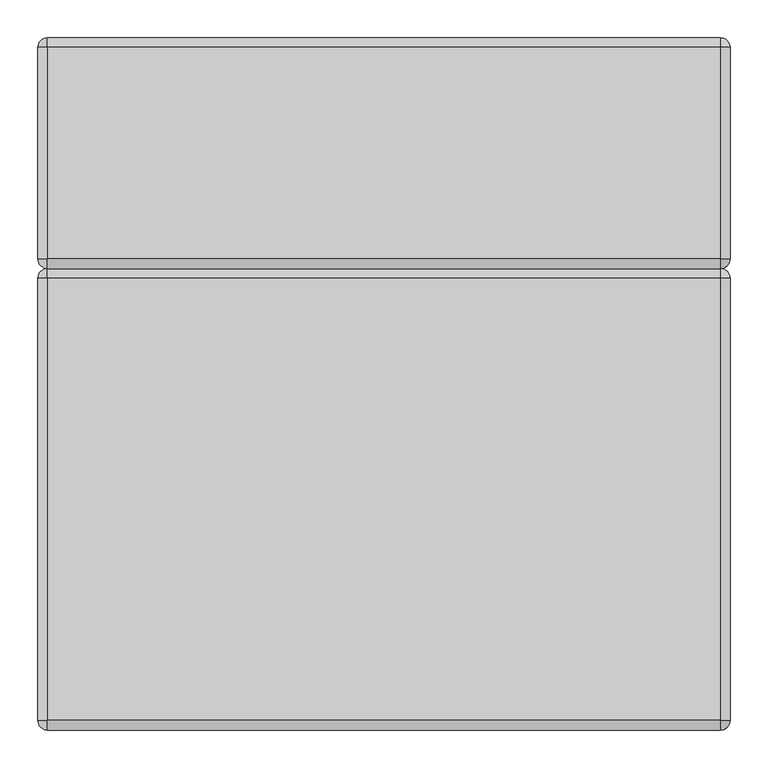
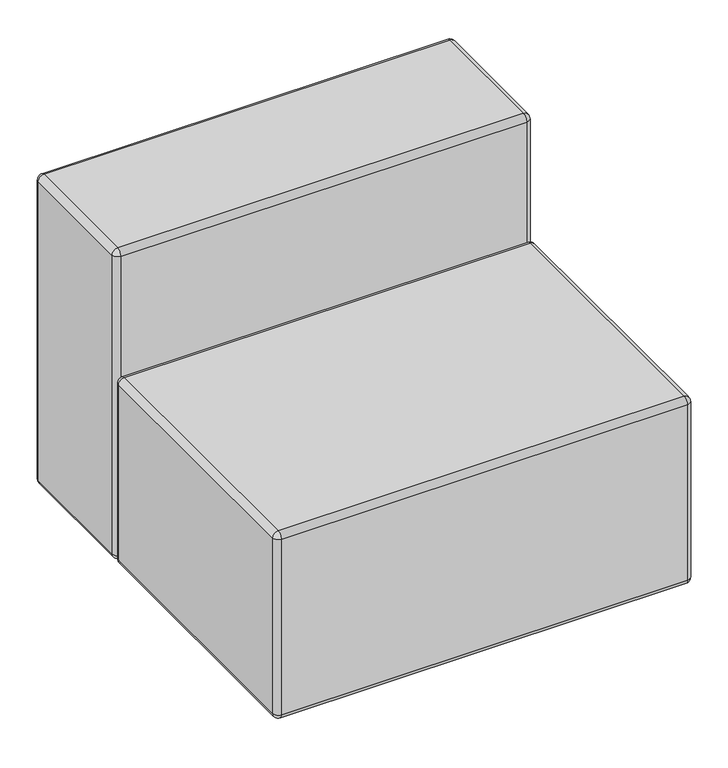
"""IFC4 building model written with IfcOpenShell, lengths in millimetres: furniture geometry, KFI Studios - Conversa : 24”x36” Seat with Back."""

from ifc_helpers import new_model, si_unit, point, frame, origin, place, context, project, spatial, polyline, circle_curve, ellipse_curve, trimmed, source, transform, mapped, element, save
from ifc_brep_helpers import plane_surface, cylinder_surface, revolved_surface, advanced_brep


def furniture_3ffb0636(model_context):
    return source(origin(), model_context, "Body", "AdvancedBrep", [
        advanced_brep(
        [(373.3895895, 517.525, 25.4), (365.125, 517.525, 25.4), (356.8604105, 517.525, 25.4), (373.3895895, 517.525, 14.2843611), (356.8604105, 517.525, 14.2843611), (371.7876354, 517.525, 14.2843611), (358.4623646, 517.525, 14.2843611), (371.7876354, 517.525, 12.7064551), (358.4623646, 517.525, 12.7064551), (373.3890671, 517.525, 12.7064551), (356.8609329, 517.525, 12.7064551), (382.5741215, 517.525, 3.1950529), (347.6758785, 517.525, 3.1950529), (382.5741215, 517.525, 0.0), (347.6758785, 517.525, 0.0), (365.125, 517.525, 0.0)],
        [
            (0, 1),
            (1, 2),
            (2, 0, circle_curve(frame((365.125, 517.525, 25.4), z_axis=(0.0, 0.0, 1.0), x_axis=(-1.0, 0.0, 0.0)), 8.2645895)),
            (0, 2, circle_curve(frame((365.125, 517.525, 25.4), z_axis=(0.0, 0.0, 1.0), x_axis=(-1.0, 0.0, 0.0)), 8.2645895)),
            (3, 0),
            (2, 4),
            (4, 3, circle_curve(frame((365.125, 517.525, 14.2843611), z_axis=(0.0, 0.0, 1.0), x_axis=(-1.0, 0.0, 0.0)), 8.2645895)),
            (3, 4, circle_curve(frame((365.125, 517.525, 14.2843611), z_axis=(0.0, 0.0, 1.0), x_axis=(-1.0, 0.0, 0.0)), 8.2645895)),
            (5, 3),
            (4, 6),
            (6, 5, circle_curve(frame((365.125, 517.525, 14.2843611), z_axis=(0.0, 0.0, 1.0), x_axis=(-1.0, 0.0, 0.0)), 6.6626354)),
            (5, 6, circle_curve(frame((365.125, 517.525, 14.2843611), z_axis=(0.0, 0.0, 1.0), x_axis=(-1.0, 0.0, 0.0)), 6.6626354)),
            (7, 5),
            (6, 8),
            (8, 7, circle_curve(frame((365.125, 517.525, 12.7064551), z_axis=(0.0, 0.0, 1.0), x_axis=(-1.0, 0.0, 0.0)), 6.6626354)),
            (7, 8, circle_curve(frame((365.125, 517.525, 12.7064551), z_axis=(0.0, 0.0, 1.0), x_axis=(-1.0, 0.0, 0.0)), 6.6626354)),
            (9, 7),
            (8, 10),
            (10, 9, circle_curve(frame((365.125, 517.525, 12.7064551), z_axis=(0.0, 0.0, 1.0), x_axis=(-1.0, 0.0, 0.0)), 8.2640671)),
            (9, 10, circle_curve(frame((365.125, 517.525, 12.7064551), z_axis=(0.0, 0.0, 1.0), x_axis=(-1.0, 0.0, 0.0)), 8.2640671)),
            (11, 9),
            (10, 12),
            (12, 11, circle_curve(frame((365.125, 517.525, 3.1950529), z_axis=(0.0, 0.0, 1.0), x_axis=(-1.0, 0.0, 0.0)), 17.4491215)),
            (11, 12, circle_curve(frame((365.125, 517.525, 3.1950529), z_axis=(0.0, 0.0, 1.0), x_axis=(-1.0, 0.0, 0.0)), 17.4491215)),
            (13, 11),
            (12, 14),
            (14, 13, circle_curve(frame((365.125, 517.525, 0.0), z_axis=(0.0, 0.0, 1.0), x_axis=(-1.0, 0.0, 0.0)), 17.4491215)),
            (13, 14, circle_curve(frame((365.125, 517.525, 0.0), z_axis=(0.0, 0.0, 1.0), x_axis=(-1.0, 0.0, 0.0)), 17.4491215)),
            (15, 13),
            (14, 15),
        ],
        [
            plane_surface(frame((365.125, 517.525, 25.4), z_axis=(0.0, 0.0, 1.0), x_axis=(-1.0, 0.0, 0.0))),
            cylinder_surface(frame((365.125, 517.525, 33.820929), z_axis=(0.0, 0.0, -1.0), x_axis=(-1.0, 0.0, 0.0)), 8.2645895),
            plane_surface(frame((365.125, 517.525, 14.2843611), z_axis=(0.0, 0.0, -1.0), x_axis=(-1.0, 0.0, 0.0))),
            cylinder_surface(frame((365.125, 517.525, 33.820929), z_axis=(0.0, 0.0, -1.0), x_axis=(-1.0, 0.0, 0.0)), 6.6626354),
            plane_surface(frame((365.125, 517.525, 12.7064551), z_axis=(0.0, 0.0, 1.0), x_axis=(-1.0, 0.0, 0.0))),
            revolved_surface(polyline([(356.8609329, 517.525, 12.7064551), (347.6758785, 517.525, 3.1950529)]), (365.125, 517.525, 33.820929), (0.0, 0.0, -1.0)),
            cylinder_surface(frame((365.125, 517.525, 33.820929), z_axis=(0.0, 0.0, -1.0), x_axis=(-1.0, 0.0, 0.0)), 17.4491215),
            plane_surface(frame((365.125, 517.525, 0.0), z_axis=(0.0, 0.0, -1.0), x_axis=(-1.0, 0.0, 0.0))),
        ],
        [
            (0, [[1, 2, 3]]),
            (0, [[-2, -1, 4]]),
            (1, [[5, -3, 6, 7]]),
            (1, [[-6, -4, -5, 8]]),
            (2, [[9, -7, 10, 11]]),
            (2, [[-10, -8, -9, 12]]),
            (3, [[13, -11, 14, 15]]),
            (3, [[-14, -12, -13, 16]]),
            (4, [[17, -15, 18, 19]]),
            (4, [[-18, -16, -17, 20]]),
            (5, [[21, -19, 22, 23]]),
            (5, [[-22, -20, -21, 24]]),
            (6, [[25, -23, 26, 27]]),
            (6, [[-26, -24, -25, 28]]),
            (7, [[29, -27, 30]]),
            (7, [[-30, -28, -29]]),
        ],
    ),
        advanced_brep(
        [(-356.8604105, 517.525, 25.4), (-365.125, 517.525, 25.4), (-373.3895895, 517.525, 25.4), (-356.8604105, 517.525, 14.2843611), (-373.3895895, 517.525, 14.2843611), (-358.4623646, 517.525, 14.2843611), (-371.7876354, 517.525, 14.2843611), (-358.4623646, 517.525, 12.7064551), (-371.7876354, 517.525, 12.7064551), (-356.8609329, 517.525, 12.7064551), (-373.3890671, 517.525, 12.7064551), (-347.6758785, 517.525, 3.1950529), (-382.5741215, 517.525, 3.1950529), (-347.6758785, 517.525, 0.0), (-382.5741215, 517.525, 0.0), (-365.125, 517.525, 0.0)],
        [
            (0, 1),
            (1, 2),
            (2, 0, circle_curve(frame((-365.125, 517.525, 25.4), z_axis=(0.0, 0.0, 1.0), x_axis=(-1.0, 0.0, 0.0)), 8.2645895)),
            (0, 2, circle_curve(frame((-365.125, 517.525, 25.4), z_axis=(0.0, 0.0, 1.0), x_axis=(-1.0, 0.0, 0.0)), 8.2645895)),
            (3, 0),
            (2, 4),
            (4, 3, circle_curve(frame((-365.125, 517.525, 14.2843611), z_axis=(0.0, 0.0, 1.0), x_axis=(-1.0, 0.0, 0.0)), 8.2645895)),
            (3, 4, circle_curve(frame((-365.125, 517.525, 14.2843611), z_axis=(0.0, 0.0, 1.0), x_axis=(-1.0, 0.0, 0.0)), 8.2645895)),
            (5, 3),
            (4, 6),
            (6, 5, circle_curve(frame((-365.125, 517.525, 14.2843611), z_axis=(0.0, 0.0, 1.0), x_axis=(-1.0, 0.0, 0.0)), 6.6626354)),
            (5, 6, circle_curve(frame((-365.125, 517.525, 14.2843611), z_axis=(0.0, 0.0, 1.0), x_axis=(-1.0, 0.0, 0.0)), 6.6626354)),
            (7, 5),
            (6, 8),
            (8, 7, circle_curve(frame((-365.125, 517.525, 12.7064551), z_axis=(0.0, 0.0, 1.0), x_axis=(-1.0, 0.0, 0.0)), 6.6626354)),
            (7, 8, circle_curve(frame((-365.125, 517.525, 12.7064551), z_axis=(0.0, 0.0, 1.0), x_axis=(-1.0, 0.0, 0.0)), 6.6626354)),
            (9, 7),
            (8, 10),
            (10, 9, circle_curve(frame((-365.125, 517.525, 12.7064551), z_axis=(0.0, 0.0, 1.0), x_axis=(-1.0, 0.0, 0.0)), 8.2640671)),
            (9, 10, circle_curve(frame((-365.125, 517.525, 12.7064551), z_axis=(0.0, 0.0, 1.0), x_axis=(-1.0, 0.0, 0.0)), 8.2640671)),
            (11, 9),
            (10, 12),
            (12, 11, circle_curve(frame((-365.125, 517.525, 3.1950529), z_axis=(0.0, 0.0, 1.0), x_axis=(-1.0, 0.0, 0.0)), 17.4491215)),
            (11, 12, circle_curve(frame((-365.125, 517.525, 3.1950529), z_axis=(0.0, 0.0, 1.0), x_axis=(-1.0, 0.0, 0.0)), 17.4491215)),
            (13, 11),
            (12, 14),
            (14, 13, circle_curve(frame((-365.125, 517.525, 0.0), z_axis=(0.0, 0.0, 1.0), x_axis=(-1.0, 0.0, 0.0)), 17.4491215)),
            (13, 14, circle_curve(frame((-365.125, 517.525, 0.0), z_axis=(0.0, 0.0, 1.0), x_axis=(-1.0, 0.0, 0.0)), 17.4491215)),
            (15, 13),
            (14, 15),
        ],
        [
            plane_surface(frame((-365.125, 517.525, 25.4), z_axis=(0.0, 0.0, 1.0), x_axis=(-1.0, 0.0, 0.0))),
            cylinder_surface(frame((-365.125, 517.525, 33.820929), z_axis=(0.0, 0.0, -1.0), x_axis=(-1.0, 0.0, 0.0)), 8.2645895),
            plane_surface(frame((-365.125, 517.525, 14.2843611), z_axis=(0.0, 0.0, -1.0), x_axis=(-1.0, 0.0, 0.0))),
            cylinder_surface(frame((-365.125, 517.525, 33.820929), z_axis=(0.0, 0.0, -1.0), x_axis=(-1.0, 0.0, 0.0)), 6.6626354),
            plane_surface(frame((-365.125, 517.525, 12.7064551), z_axis=(0.0, 0.0, 1.0), x_axis=(-1.0, 0.0, 0.0))),
            revolved_surface(polyline([(-373.3890671, 517.525, 12.7064551), (-382.5741215, 517.525, 3.1950529)]), (-365.125, 517.525, 33.820929), (0.0, 0.0, -1.0)),
            cylinder_surface(frame((-365.125, 517.525, 33.820929), z_axis=(0.0, 0.0, -1.0), x_axis=(-1.0, 0.0, 0.0)), 17.4491215),
            plane_surface(frame((-365.125, 517.525, 0.0), z_axis=(0.0, 0.0, -1.0), x_axis=(-1.0, 0.0, 0.0))),
        ],
        [
            (0, [[1, 2, 3]]),
            (0, [[-2, -1, 4]]),
            (1, [[5, -3, 6, 7]]),
            (1, [[-6, -4, -5, 8]]),
            (2, [[9, -7, 10, 11]]),
            (2, [[-10, -8, -9, 12]]),
            (3, [[13, -11, 14, 15]]),
            (3, [[-14, -12, -13, 16]]),
            (4, [[17, -15, 18, 19]]),
            (4, [[-18, -16, -17, 20]]),
            (5, [[21, -19, 22, 23]]),
            (5, [[-22, -20, -21, 24]]),
            (6, [[25, -23, 26, 27]]),
            (6, [[-26, -24, -25, 28]]),
            (7, [[29, -27, 30]]),
            (7, [[-30, -28, -29]]),
        ],
    ),
        advanced_brep(
        [(-457.2, 596.9, 730.25), (-457.2, 317.5, 730.25), (-444.5, 317.5, 742.95), (-444.5, 596.9, 742.95), (-457.2, 596.9, 38.1), (-457.2, 317.5, 38.1), (-444.5, 596.9, 25.4), (-444.5, 317.5, 25.4), (-444.5, 304.8, 730.25), (444.5, 304.8, 730.25), (444.5, 317.5, 742.95), (-444.5, 304.8, 38.1), (444.5, 304.8, 38.1), (444.5, 317.5, 25.4), (444.5, 596.9, 742.95), (444.5, 596.9, 25.4), (444.5, 609.6, 730.25), (-444.5, 609.6, 730.25), (444.5, 609.6, 38.1), (-444.5, 609.6, 38.1), (457.2, 317.5, 730.25), (457.2, 596.9, 730.25), (457.2, 317.5, 38.1), (457.2, 596.9, 38.1)],
        [
            (0, 1),
            (1, 2, circle_curve(frame((-444.5, 317.5, 730.25), z_axis=(0.0, 1.0, 0.0), x_axis=(-1.0, 0.0, 0.0)), 12.7)),
            (2, 3),
            (3, 0, circle_curve(frame((-444.5, 596.9, 730.25), z_axis=(0.0, -1.0, 0.0), x_axis=(-1.0, 0.0, 0.0)), 12.7)),
            (0, 4),
            (4, 5),
            (5, 1),
            (4, 6, circle_curve(frame((-444.5, 596.9, 38.1), z_axis=(0.0, -1.0, 0.0), x_axis=(-1.0, 0.0, 0.0)), 12.7)),
            (6, 7),
            (7, 5, circle_curve(frame((-444.5, 317.5, 38.1), z_axis=(0.0, 1.0, 0.0), x_axis=(-1.0, 0.0, 0.0)), 12.7)),
            (8, 9),
            (9, 10, circle_curve(frame((444.5, 317.5, 730.25), z_axis=(-1.0, 0.0, 0.0), x_axis=(0.0, 1.0, 0.0)), 12.7)),
            (10, 2),
            (2, 8, circle_curve(frame((-444.5, 317.5, 730.25), z_axis=(1.0, 0.0, 0.0), x_axis=(0.0, 1.0, 0.0)), 12.7)),
            (8, 11),
            (11, 12),
            (12, 9),
            (11, 7, circle_curve(frame((-444.5, 317.5, 38.1), z_axis=(1.0, 0.0, 0.0), x_axis=(0.0, 1.0, 0.0)), 12.7)),
            (7, 13),
            (13, 12, circle_curve(frame((444.5, 317.5, 38.1), z_axis=(-1.0, 0.0, 0.0), x_axis=(0.0, 1.0, 0.0)), 12.7)),
            (10, 14),
            (14, 3),
            (6, 15),
            (15, 13),
            (16, 17),
            (17, 3, circle_curve(frame((-444.5, 596.9, 730.25), z_axis=(1.0, 0.0, 0.0), x_axis=(0.0, 1.0, 0.0)), 12.7)),
            (14, 16, circle_curve(frame((444.5, 596.9, 730.25), z_axis=(-1.0, 0.0, 0.0), x_axis=(0.0, 1.0, 0.0)), 12.7)),
            (16, 18),
            (18, 19),
            (19, 17),
            (18, 15, circle_curve(frame((444.5, 596.9, 38.1), z_axis=(-1.0, 0.0, 0.0), x_axis=(0.0, 1.0, 0.0)), 12.7)),
            (6, 19, circle_curve(frame((-444.5, 596.9, 38.1), z_axis=(1.0, 0.0, 0.0), x_axis=(0.0, 1.0, 0.0)), 12.7)),
            (20, 21),
            (21, 14, circle_curve(frame((444.5, 596.9, 730.25), z_axis=(0.0, -1.0, 0.0), x_axis=(-1.0, 0.0, 0.0)), 12.7)),
            (10, 20, circle_curve(frame((444.5, 317.5, 730.25), z_axis=(0.0, 1.0, 0.0), x_axis=(-1.0, 0.0, 0.0)), 12.7)),
            (20, 22),
            (22, 23),
            (23, 21),
            (22, 13, circle_curve(frame((444.5, 317.5, 38.1), z_axis=(0.0, 1.0, 0.0), x_axis=(-1.0, 0.0, 0.0)), 12.7)),
            (15, 23, circle_curve(frame((444.5, 596.9, 38.1), z_axis=(0.0, -1.0, 0.0), x_axis=(-1.0, 0.0, 0.0)), 12.7)),
            (19, 4, circle_curve(frame((-444.5, 596.9, 38.1), z_axis=(0.0, 0.0, 1.0), x_axis=(-1.0, 0.0, 0.0)), 12.7)),
            (0, 17, circle_curve(frame((-444.5, 596.9, 730.25), z_axis=(0.0, 0.0, -1.0), x_axis=(-1.0, 0.0, 0.0)), 12.7)),
            (8, 1, circle_curve(frame((-444.5, 317.5, 730.25), z_axis=(0.0, 0.0, -1.0), x_axis=(-1.0, 0.0, 0.0)), 12.7)),
            (5, 11, circle_curve(frame((-444.5, 317.5, 38.1), z_axis=(0.0, 0.0, 1.0), x_axis=(-1.0, 0.0, 0.0)), 12.7)),
            (12, 22, circle_curve(frame((444.5, 317.5, 38.1), z_axis=(0.0, 0.0, 1.0), x_axis=(1.0, 0.0, 0.0)), 12.7)),
            (20, 9, circle_curve(frame((444.5, 317.5, 730.25), z_axis=(0.0, 0.0, -1.0), x_axis=(1.0, 0.0, 0.0)), 12.7)),
            (16, 21, circle_curve(frame((444.5, 596.9, 730.25), z_axis=(0.0, 0.0, -1.0), x_axis=(1.0, 0.0, 0.0)), 12.7)),
            (23, 18, circle_curve(frame((444.5, 596.9, 38.1), z_axis=(0.0, 0.0, 1.0), x_axis=(1.0, 0.0, 0.0)), 12.7)),
        ],
        [
            cylinder_surface(frame((-444.5, 317.5, 730.25), z_axis=(0.0, -1.0, 0.0), x_axis=(-1.0, 0.0, 0.0)), 12.7),
            plane_surface(frame((-457.2, 317.5, 730.25), z_axis=(-1.0, 0.0, 0.0), x_axis=(0.0, 1.0, 0.0))),
            cylinder_surface(frame((-444.5, 317.5, 38.1), z_axis=(0.0, -1.0, 0.0), x_axis=(-1.0, 0.0, 0.0)), 12.7),
            cylinder_surface(frame((-444.5, 317.5, 730.25), z_axis=(-1.0, 0.0, 0.0), x_axis=(0.0, 1.0, 0.0)), 12.7),
            plane_surface(frame((-444.5, 304.8, 38.1), z_axis=(0.0, -1.0, 0.0), x_axis=(1.0, 0.0, 0.0))),
            cylinder_surface(frame((-444.5, 317.5, 38.1), z_axis=(-1.0, 0.0, 0.0), x_axis=(0.0, 1.0, 0.0)), 12.7),
            plane_surface(frame((-444.5, 596.9, 742.95), z_axis=(0.0, 0.0, 1.0), x_axis=(-1.0, 0.0, 0.0))),
            plane_surface(frame((-444.5, 596.9, 25.4), z_axis=(0.0, 0.0, -1.0), x_axis=(1.0, 0.0, 0.0))),
            cylinder_surface(frame((-444.5, 596.9, 730.25), z_axis=(-1.0, 0.0, 0.0), x_axis=(0.0, 1.0, 0.0)), 12.7),
            plane_surface(frame((-444.5, 609.6, 730.25), z_axis=(0.0, 1.0, 0.0), x_axis=(1.0, 0.0, 0.0))),
            cylinder_surface(frame((-444.5, 596.9, 38.1), z_axis=(-1.0, 0.0, 0.0), x_axis=(0.0, 1.0, 0.0)), 12.7),
            cylinder_surface(frame((444.5, 317.5, 730.25), z_axis=(0.0, -1.0, 0.0), x_axis=(-1.0, 0.0, 0.0)), 12.7),
            plane_surface(frame((457.2, 317.5, 38.1), z_axis=(1.0, 0.0, 0.0), x_axis=(0.0, 1.0, 0.0))),
            cylinder_surface(frame((444.5, 317.5, 38.1), z_axis=(0.0, -1.0, 0.0), x_axis=(-1.0, 0.0, 0.0)), 12.7),
            cylinder_surface(frame((-444.5, 596.9, 742.95), z_axis=(0.0, 0.0, 1.0), x_axis=(-1.0, 0.0, 0.0)), 12.7),
            revolved_surface(trimmed(ellipse_curve(frame((-444.5, 596.9, 38.1), z_axis=(0.0, 1.0, 0.0), x_axis=(0.0, 0.0, 1.0)), 12.7, 12.7), [point((-444.5, 596.9, 25.4))], [point((-457.2, 596.9, 38.1))], True, "CARTESIAN"), (-444.5, 596.9, 742.95), (0.0, 0.0, 1.0)),
            revolved_surface(trimmed(ellipse_curve(frame((-444.5, 596.9, 730.25), z_axis=(0.0, 1.0, 0.0), x_axis=(0.0, 0.0, 1.0)), 12.7, 12.7), [point((-457.2, 596.9, 730.25))], [point((-444.5, 596.9, 742.95))], True, "CARTESIAN"), (-444.5, 596.9, 742.95), (0.0, 0.0, 1.0)),
            cylinder_surface(frame((-444.5, 317.5, 592.6689642), z_axis=(0.0, 0.0, -1.0), x_axis=(-1.0, 0.0, 0.0)), 12.7),
            revolved_surface(trimmed(ellipse_curve(frame((-444.5, 317.5, 730.25), z_axis=(0.0, -1.0, 0.0), x_axis=(1.0, 0.0, 0.0)), 12.7, 12.7), [point((-444.5, 317.5, 742.95))], [point((-457.2, 317.5, 730.25))], True, "CARTESIAN"), (-444.5, 317.5, 592.6689642), (0.0, 0.0, -1.0)),
            revolved_surface(trimmed(ellipse_curve(frame((-444.5, 317.5, 38.1), z_axis=(0.0, -1.0, 0.0), x_axis=(1.0, 0.0, 0.0)), 12.7, 12.7), [point((-457.2, 317.5, 38.1))], [point((-444.5, 317.5, 25.4))], True, "CARTESIAN"), (-444.5, 317.5, 592.6689642), (0.0, 0.0, -1.0)),
            cylinder_surface(frame((444.5, 317.5, 742.95), z_axis=(0.0, 0.0, 1.0), x_axis=(1.0, 0.0, 0.0)), 12.7),
            revolved_surface(trimmed(ellipse_curve(frame((444.5, 317.5, 38.1), z_axis=(0.0, -1.0, 0.0), x_axis=(1.0, 0.0, 0.0)), 12.7, 12.7), [point((444.5, 317.5, 25.4))], [point((457.2, 317.5, 38.1))], True, "CARTESIAN"), (444.5, 317.5, 742.95), (0.0, 0.0, 1.0)),
            revolved_surface(trimmed(ellipse_curve(frame((444.5, 317.5, 730.25), z_axis=(0.0, -1.0, 0.0), x_axis=(1.0, 0.0, 0.0)), 12.7, 12.7), [point((457.2, 317.5, 730.25))], [point((444.5, 317.5, 742.95))], True, "CARTESIAN"), (444.5, 317.5, 742.95), (0.0, 0.0, 1.0)),
            cylinder_surface(frame((444.5, 596.9, 592.6689642), z_axis=(0.0, 0.0, -1.0), x_axis=(1.0, 0.0, 0.0)), 12.7),
            revolved_surface(trimmed(ellipse_curve(frame((444.5, 596.9, 730.25), z_axis=(0.0, 1.0, 0.0), x_axis=(0.0, 0.0, 1.0)), 12.7, 12.7), [point((444.5, 596.9, 742.95))], [point((457.2, 596.9, 730.25))], True, "CARTESIAN"), (444.5, 596.9, 592.6689642), (0.0, 0.0, -1.0)),
            revolved_surface(trimmed(ellipse_curve(frame((444.5, 596.9, 38.1), z_axis=(0.0, 1.0, 0.0), x_axis=(0.0, 0.0, 1.0)), 12.7, 12.7), [point((457.2, 596.9, 38.1))], [point((444.5, 596.9, 25.4))], True, "CARTESIAN"), (444.5, 596.9, 592.6689642), (0.0, 0.0, -1.0)),
        ],
        [
            (0, [[1, 2, 3, 4]]),
            (1, [[-1, 5, 6, 7]]),
            (2, [[-6, 8, 9, 10]]),
            (3, [[11, 12, 13, 14]]),
            (4, [[-11, 15, 16, 17]]),
            (5, [[-16, 18, 19, 20]]),
            (6, [[-3, -13, 21, 22]]),
            (7, [[-9, 23, 24, -19]]),
            (8, [[25, 26, -22, 27]]),
            (9, [[-25, 28, 29, 30]]),
            (10, [[-29, 31, -23, 32]]),
            (11, [[33, 34, -21, 35]]),
            (12, [[-33, 36, 37, 38]]),
            (13, [[-37, 39, -24, 40]]),
            (14, [[41, -5, 42, -30]]),
            (15, [[-41, -32, -8]]),
            (16, [[-42, -4, -26]]),
            (17, [[43, -7, 44, -15]]),
            (18, [[-43, -14, -2]]),
            (19, [[-44, -10, -18]]),
            (20, [[45, -36, 46, -17]]),
            (21, [[-45, -20, -39]]),
            (22, [[-46, -35, -12]]),
            (23, [[47, -38, 48, -28]]),
            (24, [[-47, -27, -34]]),
            (25, [[-48, -40, -31]]),
        ],
    ),
        advanced_brep(
        [(373.3895895, 212.725, 25.4), (365.125, 212.725, 25.4), (356.8604105, 212.725, 25.4), (373.3895895, 212.725, 14.2843611), (356.8604105, 212.725, 14.2843611), (371.7876354, 212.725, 14.2843611), (358.4623646, 212.725, 14.2843611), (371.7876354, 212.725, 12.7064551), (358.4623646, 212.725, 12.7064551), (373.3890671, 212.725, 12.7064551), (356.8609329, 212.725, 12.7064551), (382.5741215, 212.725, 3.1950529), (347.6758785, 212.725, 3.1950529), (382.5741215, 212.725, 0.0), (347.6758785, 212.725, 0.0), (365.125, 212.725, 0.0)],
        [
            (0, 1),
            (1, 2),
            (2, 0, circle_curve(frame((365.125, 212.725, 25.4), z_axis=(0.0, 0.0, 1.0), x_axis=(-1.0, 0.0, 0.0)), 8.2645895)),
            (0, 2, circle_curve(frame((365.125, 212.725, 25.4), z_axis=(0.0, 0.0, 1.0), x_axis=(-1.0, 0.0, 0.0)), 8.2645895)),
            (3, 0),
            (2, 4),
            (4, 3, circle_curve(frame((365.125, 212.725, 14.2843611), z_axis=(0.0, 0.0, 1.0), x_axis=(-1.0, 0.0, 0.0)), 8.2645895)),
            (3, 4, circle_curve(frame((365.125, 212.725, 14.2843611), z_axis=(0.0, 0.0, 1.0), x_axis=(-1.0, 0.0, 0.0)), 8.2645895)),
            (5, 3),
            (4, 6),
            (6, 5, circle_curve(frame((365.125, 212.725, 14.2843611), z_axis=(0.0, 0.0, 1.0), x_axis=(-1.0, 0.0, 0.0)), 6.6626354)),
            (5, 6, circle_curve(frame((365.125, 212.725, 14.2843611), z_axis=(0.0, 0.0, 1.0), x_axis=(-1.0, 0.0, 0.0)), 6.6626354)),
            (7, 5),
            (6, 8),
            (8, 7, circle_curve(frame((365.125, 212.725, 12.7064551), z_axis=(0.0, 0.0, 1.0), x_axis=(-1.0, 0.0, 0.0)), 6.6626354)),
            (7, 8, circle_curve(frame((365.125, 212.725, 12.7064551), z_axis=(0.0, 0.0, 1.0), x_axis=(-1.0, 0.0, 0.0)), 6.6626354)),
            (9, 7),
            (8, 10),
            (10, 9, circle_curve(frame((365.125, 212.725, 12.7064551), z_axis=(0.0, 0.0, 1.0), x_axis=(-1.0, 0.0, 0.0)), 8.2640671)),
            (9, 10, circle_curve(frame((365.125, 212.725, 12.7064551), z_axis=(0.0, 0.0, 1.0), x_axis=(-1.0, 0.0, 0.0)), 8.2640671)),
            (11, 9),
            (10, 12),
            (12, 11, circle_curve(frame((365.125, 212.725, 3.1950529), z_axis=(0.0, 0.0, 1.0), x_axis=(-1.0, 0.0, 0.0)), 17.4491215)),
            (11, 12, circle_curve(frame((365.125, 212.725, 3.1950529), z_axis=(0.0, 0.0, 1.0), x_axis=(-1.0, 0.0, 0.0)), 17.4491215)),
            (13, 11),
            (12, 14),
            (14, 13, circle_curve(frame((365.125, 212.725, 0.0), z_axis=(0.0, 0.0, 1.0), x_axis=(-1.0, 0.0, 0.0)), 17.4491215)),
            (13, 14, circle_curve(frame((365.125, 212.725, 0.0), z_axis=(0.0, 0.0, 1.0), x_axis=(-1.0, 0.0, 0.0)), 17.4491215)),
            (15, 13),
            (14, 15),
        ],
        [
            plane_surface(frame((365.125, 212.725, 25.4), z_axis=(0.0, 0.0, 1.0), x_axis=(-1.0, 0.0, 0.0))),
            cylinder_surface(frame((365.125, 212.725, 33.820929), z_axis=(0.0, 0.0, -1.0), x_axis=(-1.0, 0.0, 0.0)), 8.2645895),
            plane_surface(frame((365.125, 212.725, 14.2843611), z_axis=(0.0, 0.0, -1.0), x_axis=(-1.0, 0.0, 0.0))),
            cylinder_surface(frame((365.125, 212.725, 33.820929), z_axis=(0.0, 0.0, -1.0), x_axis=(-1.0, 0.0, 0.0)), 6.6626354),
            plane_surface(frame((365.125, 212.725, 12.7064551), z_axis=(0.0, 0.0, 1.0), x_axis=(-1.0, 0.0, 0.0))),
            revolved_surface(polyline([(356.8609329, 212.725, 12.7064551), (347.6758785, 212.725, 3.1950529)]), (365.125, 212.725, 33.820929), (0.0, 0.0, -1.0)),
            cylinder_surface(frame((365.125, 212.725, 33.820929), z_axis=(0.0, 0.0, -1.0), x_axis=(-1.0, 0.0, 0.0)), 17.4491215),
            plane_surface(frame((365.125, 212.725, 0.0), z_axis=(0.0, 0.0, -1.0), x_axis=(-1.0, 0.0, 0.0))),
        ],
        [
            (0, [[1, 2, 3]]),
            (0, [[-2, -1, 4]]),
            (1, [[5, -3, 6, 7]]),
            (1, [[-6, -4, -5, 8]]),
            (2, [[9, -7, 10, 11]]),
            (2, [[-10, -8, -9, 12]]),
            (3, [[13, -11, 14, 15]]),
            (3, [[-14, -12, -13, 16]]),
            (4, [[17, -15, 18, 19]]),
            (4, [[-18, -16, -17, 20]]),
            (5, [[21, -19, 22, 23]]),
            (5, [[-22, -20, -21, 24]]),
            (6, [[25, -23, 26, 27]]),
            (6, [[-26, -24, -25, 28]]),
            (7, [[29, -27, 30]]),
            (7, [[-30, -28, -29]]),
        ],
    ),
        advanced_brep(
        [(-356.8604105, 212.725, 25.4), (-365.125, 212.725, 25.4), (-373.3895895, 212.725, 25.4), (-356.8604105, 212.725, 14.2843611), (-373.3895895, 212.725, 14.2843611), (-358.4623646, 212.725, 14.2843611), (-371.7876354, 212.725, 14.2843611), (-358.4623646, 212.725, 12.7064551), (-371.7876354, 212.725, 12.7064551), (-356.8609329, 212.725, 12.7064551), (-373.3890671, 212.725, 12.7064551), (-347.6758785, 212.725, 3.1950529), (-382.5741215, 212.725, 3.1950529), (-347.6758785, 212.725, 0.0), (-382.5741215, 212.725, 0.0), (-365.125, 212.725, 0.0)],
        [
            (0, 1),
            (1, 2),
            (2, 0, circle_curve(frame((-365.125, 212.725, 25.4), z_axis=(0.0, 0.0, 1.0), x_axis=(-1.0, 0.0, 0.0)), 8.2645895)),
            (0, 2, circle_curve(frame((-365.125, 212.725, 25.4), z_axis=(0.0, 0.0, 1.0), x_axis=(-1.0, 0.0, 0.0)), 8.2645895)),
            (3, 0),
            (2, 4),
            (4, 3, circle_curve(frame((-365.125, 212.725, 14.2843611), z_axis=(0.0, 0.0, 1.0), x_axis=(-1.0, 0.0, 0.0)), 8.2645895)),
            (3, 4, circle_curve(frame((-365.125, 212.725, 14.2843611), z_axis=(0.0, 0.0, 1.0), x_axis=(-1.0, 0.0, 0.0)), 8.2645895)),
            (5, 3),
            (4, 6),
            (6, 5, circle_curve(frame((-365.125, 212.725, 14.2843611), z_axis=(0.0, 0.0, 1.0), x_axis=(-1.0, 0.0, 0.0)), 6.6626354)),
            (5, 6, circle_curve(frame((-365.125, 212.725, 14.2843611), z_axis=(0.0, 0.0, 1.0), x_axis=(-1.0, 0.0, 0.0)), 6.6626354)),
            (7, 5),
            (6, 8),
            (8, 7, circle_curve(frame((-365.125, 212.725, 12.7064551), z_axis=(0.0, 0.0, 1.0), x_axis=(-1.0, 0.0, 0.0)), 6.6626354)),
            (7, 8, circle_curve(frame((-365.125, 212.725, 12.7064551), z_axis=(0.0, 0.0, 1.0), x_axis=(-1.0, 0.0, 0.0)), 6.6626354)),
            (9, 7),
            (8, 10),
            (10, 9, circle_curve(frame((-365.125, 212.725, 12.7064551), z_axis=(0.0, 0.0, 1.0), x_axis=(-1.0, 0.0, 0.0)), 8.2640671)),
            (9, 10, circle_curve(frame((-365.125, 212.725, 12.7064551), z_axis=(0.0, 0.0, 1.0), x_axis=(-1.0, 0.0, 0.0)), 8.2640671)),
            (11, 9),
            (10, 12),
            (12, 11, circle_curve(frame((-365.125, 212.725, 3.1950529), z_axis=(0.0, 0.0, 1.0), x_axis=(-1.0, 0.0, 0.0)), 17.4491215)),
            (11, 12, circle_curve(frame((-365.125, 212.725, 3.1950529), z_axis=(0.0, 0.0, 1.0), x_axis=(-1.0, 0.0, 0.0)), 17.4491215)),
            (13, 11),
            (12, 14),
            (14, 13, circle_curve(frame((-365.125, 212.725, 0.0), z_axis=(0.0, 0.0, 1.0), x_axis=(-1.0, 0.0, 0.0)), 17.4491215)),
            (13, 14, circle_curve(frame((-365.125, 212.725, 0.0), z_axis=(0.0, 0.0, 1.0), x_axis=(-1.0, 0.0, 0.0)), 17.4491215)),
            (15, 13),
            (14, 15),
        ],
        [
            plane_surface(frame((-365.125, 212.725, 25.4), z_axis=(0.0, 0.0, 1.0), x_axis=(-1.0, 0.0, 0.0))),
            cylinder_surface(frame((-365.125, 212.725, 33.820929), z_axis=(0.0, 0.0, -1.0), x_axis=(-1.0, 0.0, 0.0)), 8.2645895),
            plane_surface(frame((-365.125, 212.725, 14.2843611), z_axis=(0.0, 0.0, -1.0), x_axis=(-1.0, 0.0, 0.0))),
            cylinder_surface(frame((-365.125, 212.725, 33.820929), z_axis=(0.0, 0.0, -1.0), x_axis=(-1.0, 0.0, 0.0)), 6.6626354),
            plane_surface(frame((-365.125, 212.725, 12.7064551), z_axis=(0.0, 0.0, 1.0), x_axis=(-1.0, 0.0, 0.0))),
            revolved_surface(polyline([(-373.3890671, 212.725, 12.7064551), (-382.5741215, 212.725, 3.1950529)]), (-365.125, 212.725, 33.820929), (0.0, 0.0, -1.0)),
            cylinder_surface(frame((-365.125, 212.725, 33.820929), z_axis=(0.0, 0.0, -1.0), x_axis=(-1.0, 0.0, 0.0)), 17.4491215),
            plane_surface(frame((-365.125, 212.725, 0.0), z_axis=(0.0, 0.0, -1.0), x_axis=(-1.0, 0.0, 0.0))),
        ],
        [
            (0, [[1, 2, 3]]),
            (0, [[-2, -1, 4]]),
            (1, [[5, -3, 6, 7]]),
            (1, [[-6, -4, -5, 8]]),
            (2, [[9, -7, 10, 11]]),
            (2, [[-10, -8, -9, 12]]),
            (3, [[13, -11, 14, 15]]),
            (3, [[-14, -12, -13, 16]]),
            (4, [[17, -15, 18, 19]]),
            (4, [[-18, -16, -17, 20]]),
            (5, [[21, -19, 22, 23]]),
            (5, [[-22, -20, -21, 24]]),
            (6, [[25, -23, 26, 27]]),
            (6, [[-26, -24, -25, 28]]),
            (7, [[29, -27, 30]]),
            (7, [[-30, -28, -29]]),
        ],
    ),
        advanced_brep(
        [(373.3895895, -212.725, 25.4), (356.8604105, -212.725, 25.4), (365.125, -212.725, 25.4), (373.3895895, -212.725, 14.2843611), (356.8604105, -212.725, 14.2843611), (371.7876354, -212.725, 14.2843611), (358.4623646, -212.725, 14.2843611), (371.7876354, -212.725, 12.7064551), (358.4623646, -212.725, 12.7064551), (373.3890671, -212.725, 12.7064551), (356.8609329, -212.725, 12.7064551), (382.5741215, -212.725, 3.1950529), (347.6758785, -212.725, 3.1950529), (382.5741215, -212.725, 0.0), (347.6758785, -212.725, 0.0), (365.125, -212.725, 0.0)],
        [
            (0, 1, circle_curve(frame((365.125, -212.725, 25.4), z_axis=(0.0, 0.0, 1.0), x_axis=(-1.0, 0.0, 0.0)), 8.2645895)),
            (1, 2),
            (2, 0),
            (1, 0, circle_curve(frame((365.125, -212.725, 25.4), z_axis=(0.0, 0.0, 1.0), x_axis=(-1.0, 0.0, 0.0)), 8.2645895)),
            (3, 4, circle_curve(frame((365.125, -212.725, 14.2843611), z_axis=(0.0, 0.0, 1.0), x_axis=(-1.0, 0.0, 0.0)), 8.2645895)),
            (4, 1),
            (0, 3),
            (4, 3, circle_curve(frame((365.125, -212.725, 14.2843611), z_axis=(0.0, 0.0, 1.0), x_axis=(-1.0, 0.0, 0.0)), 8.2645895)),
            (5, 6, circle_curve(frame((365.125, -212.725, 14.2843611), z_axis=(0.0, 0.0, 1.0), x_axis=(-1.0, 0.0, 0.0)), 6.6626354)),
            (6, 4),
            (3, 5),
            (6, 5, circle_curve(frame((365.125, -212.725, 14.2843611), z_axis=(0.0, 0.0, 1.0), x_axis=(-1.0, 0.0, 0.0)), 6.6626354)),
            (7, 8, circle_curve(frame((365.125, -212.725, 12.7064551), z_axis=(0.0, 0.0, 1.0), x_axis=(-1.0, 0.0, 0.0)), 6.6626354)),
            (8, 6),
            (5, 7),
            (8, 7, circle_curve(frame((365.125, -212.725, 12.7064551), z_axis=(0.0, 0.0, 1.0), x_axis=(-1.0, 0.0, 0.0)), 6.6626354)),
            (9, 10, circle_curve(frame((365.125, -212.725, 12.7064551), z_axis=(0.0, 0.0, 1.0), x_axis=(-1.0, 0.0, 0.0)), 8.2640671)),
            (10, 8),
            (7, 9),
            (10, 9, circle_curve(frame((365.125, -212.725, 12.7064551), z_axis=(0.0, 0.0, 1.0), x_axis=(-1.0, 0.0, 0.0)), 8.2640671)),
            (11, 12, circle_curve(frame((365.125, -212.725, 3.1950529), z_axis=(0.0, 0.0, 1.0), x_axis=(-1.0, 0.0, 0.0)), 17.4491215)),
            (12, 10),
            (9, 11),
            (12, 11, circle_curve(frame((365.125, -212.725, 3.1950529), z_axis=(0.0, 0.0, 1.0), x_axis=(-1.0, 0.0, 0.0)), 17.4491215)),
            (13, 14, circle_curve(frame((365.125, -212.725, 0.0), z_axis=(0.0, 0.0, 1.0), x_axis=(-1.0, 0.0, 0.0)), 17.4491215)),
            (14, 12),
            (11, 13),
            (14, 13, circle_curve(frame((365.125, -212.725, 0.0), z_axis=(0.0, 0.0, 1.0), x_axis=(-1.0, 0.0, 0.0)), 17.4491215)),
            (15, 14),
            (13, 15),
        ],
        [
            plane_surface(frame((365.125, -212.725, 25.4), z_axis=(0.0, 0.0, 1.0), x_axis=(-1.0, 0.0, 0.0))),
            cylinder_surface(frame((365.125, -212.725, 33.820929), z_axis=(0.0, 0.0, -1.0), x_axis=(-1.0, 0.0, 0.0)), 8.2645895),
            plane_surface(frame((365.125, -212.725, 14.2843611), z_axis=(0.0, 0.0, -1.0), x_axis=(-1.0, 0.0, 0.0))),
            cylinder_surface(frame((365.125, -212.725, 33.820929), z_axis=(0.0, 0.0, -1.0), x_axis=(-1.0, 0.0, 0.0)), 6.6626354),
            plane_surface(frame((365.125, -212.725, 12.7064551), z_axis=(0.0, 0.0, 1.0), x_axis=(-1.0, 0.0, 0.0))),
            revolved_surface(polyline([(356.8609329, -212.725, 12.7064551), (347.6758785, -212.725, 3.1950529)]), (365.125, -212.725, 33.820929), (0.0, 0.0, -1.0)),
            cylinder_surface(frame((365.125, -212.725, 33.820929), z_axis=(0.0, 0.0, -1.0), x_axis=(-1.0, 0.0, 0.0)), 17.4491215),
            plane_surface(frame((365.125, -212.725, 0.0), z_axis=(0.0, 0.0, -1.0), x_axis=(-1.0, 0.0, 0.0))),
        ],
        [
            (0, [[1, 2, 3]]),
            (0, [[4, -3, -2]]),
            (1, [[5, 6, -1, 7]]),
            (1, [[8, -7, -4, -6]]),
            (2, [[9, 10, -5, 11]]),
            (2, [[12, -11, -8, -10]]),
            (3, [[13, 14, -9, 15]]),
            (3, [[16, -15, -12, -14]]),
            (4, [[17, 18, -13, 19]]),
            (4, [[20, -19, -16, -18]]),
            (5, [[21, 22, -17, 23]]),
            (5, [[24, -23, -20, -22]]),
            (6, [[25, 26, -21, 27]]),
            (6, [[28, -27, -24, -26]]),
            (7, [[29, -25, 30]]),
            (7, [[-30, -28, -29]]),
        ],
    ),
        advanced_brep(
        [(-356.8604105, -212.725, 25.4), (-373.3895895, -212.725, 25.4), (-365.125, -212.725, 25.4), (-356.8604105, -212.725, 14.2843611), (-373.3895895, -212.725, 14.2843611), (-358.4623646, -212.725, 14.2843611), (-371.7876354, -212.725, 14.2843611), (-358.4623646, -212.725, 12.7064551), (-371.7876354, -212.725, 12.7064551), (-356.8609329, -212.725, 12.7064551), (-373.3890671, -212.725, 12.7064551), (-347.6758785, -212.725, 3.1950529), (-382.5741215, -212.725, 3.1950529), (-347.6758785, -212.725, 0.0), (-382.5741215, -212.725, 0.0), (-365.125, -212.725, 0.0)],
        [
            (0, 1, circle_curve(frame((-365.125, -212.725, 25.4), z_axis=(0.0, 0.0, 1.0), x_axis=(-1.0, 0.0, 0.0)), 8.2645895)),
            (1, 2),
            (2, 0),
            (1, 0, circle_curve(frame((-365.125, -212.725, 25.4), z_axis=(0.0, 0.0, 1.0), x_axis=(-1.0, 0.0, 0.0)), 8.2645895)),
            (3, 4, circle_curve(frame((-365.125, -212.725, 14.2843611), z_axis=(0.0, 0.0, 1.0), x_axis=(-1.0, 0.0, 0.0)), 8.2645895)),
            (4, 1),
            (0, 3),
            (4, 3, circle_curve(frame((-365.125, -212.725, 14.2843611), z_axis=(0.0, 0.0, 1.0), x_axis=(-1.0, 0.0, 0.0)), 8.2645895)),
            (5, 6, circle_curve(frame((-365.125, -212.725, 14.2843611), z_axis=(0.0, 0.0, 1.0), x_axis=(-1.0, 0.0, 0.0)), 6.6626354)),
            (6, 4),
            (3, 5),
            (6, 5, circle_curve(frame((-365.125, -212.725, 14.2843611), z_axis=(0.0, 0.0, 1.0), x_axis=(-1.0, 0.0, 0.0)), 6.6626354)),
            (7, 8, circle_curve(frame((-365.125, -212.725, 12.7064551), z_axis=(0.0, 0.0, 1.0), x_axis=(-1.0, 0.0, 0.0)), 6.6626354)),
            (8, 6),
            (5, 7),
            (8, 7, circle_curve(frame((-365.125, -212.725, 12.7064551), z_axis=(0.0, 0.0, 1.0), x_axis=(-1.0, 0.0, 0.0)), 6.6626354)),
            (9, 10, circle_curve(frame((-365.125, -212.725, 12.7064551), z_axis=(0.0, 0.0, 1.0), x_axis=(-1.0, 0.0, 0.0)), 8.2640671)),
            (10, 8),
            (7, 9),
            (10, 9, circle_curve(frame((-365.125, -212.725, 12.7064551), z_axis=(0.0, 0.0, 1.0), x_axis=(-1.0, 0.0, 0.0)), 8.2640671)),
            (11, 12, circle_curve(frame((-365.125, -212.725, 3.1950529), z_axis=(0.0, 0.0, 1.0), x_axis=(-1.0, 0.0, 0.0)), 17.4491215)),
            (12, 10),
            (9, 11),
            (12, 11, circle_curve(frame((-365.125, -212.725, 3.1950529), z_axis=(0.0, 0.0, 1.0), x_axis=(-1.0, 0.0, 0.0)), 17.4491215)),
            (13, 14, circle_curve(frame((-365.125, -212.725, 0.0), z_axis=(0.0, 0.0, 1.0), x_axis=(-1.0, 0.0, 0.0)), 17.4491215)),
            (14, 12),
            (11, 13),
            (14, 13, circle_curve(frame((-365.125, -212.725, 0.0), z_axis=(0.0, 0.0, 1.0), x_axis=(-1.0, 0.0, 0.0)), 17.4491215)),
            (15, 14),
            (13, 15),
        ],
        [
            plane_surface(frame((-365.125, -212.725, 25.4), z_axis=(0.0, 0.0, 1.0), x_axis=(-1.0, 0.0, 0.0))),
            cylinder_surface(frame((-365.125, -212.725, 33.820929), z_axis=(0.0, 0.0, -1.0), x_axis=(-1.0, 0.0, 0.0)), 8.2645895),
            plane_surface(frame((-365.125, -212.725, 14.2843611), z_axis=(0.0, 0.0, -1.0), x_axis=(-1.0, 0.0, 0.0))),
            cylinder_surface(frame((-365.125, -212.725, 33.820929), z_axis=(0.0, 0.0, -1.0), x_axis=(-1.0, 0.0, 0.0)), 6.6626354),
            plane_surface(frame((-365.125, -212.725, 12.7064551), z_axis=(0.0, 0.0, 1.0), x_axis=(-1.0, 0.0, 0.0))),
            revolved_surface(polyline([(-373.3890671, -212.725, 12.7064551), (-382.5741215, -212.725, 3.1950529)]), (-365.125, -212.725, 33.820929), (0.0, 0.0, -1.0)),
            cylinder_surface(frame((-365.125, -212.725, 33.820929), z_axis=(0.0, 0.0, -1.0), x_axis=(-1.0, 0.0, 0.0)), 17.4491215),
            plane_surface(frame((-365.125, -212.725, 0.0), z_axis=(0.0, 0.0, -1.0), x_axis=(-1.0, 0.0, 0.0))),
        ],
        [
            (0, [[1, 2, 3]]),
            (0, [[4, -3, -2]]),
            (1, [[5, 6, -1, 7]]),
            (1, [[8, -7, -4, -6]]),
            (2, [[9, 10, -5, 11]]),
            (2, [[12, -11, -8, -10]]),
            (3, [[13, 14, -9, 15]]),
            (3, [[16, -15, -12, -14]]),
            (4, [[17, 18, -13, 19]]),
            (4, [[20, -19, -16, -18]]),
            (5, [[21, 22, -17, 23]]),
            (5, [[24, -23, -20, -22]]),
            (6, [[25, 26, -21, 27]]),
            (6, [[28, -27, -24, -26]]),
            (7, [[29, -25, 30]]),
            (7, [[-30, -28, -29]]),
        ],
    ),
        advanced_brep(
        [(-457.2, 292.1, 444.5), (-457.2, -292.1, 444.5), (-444.5, -292.1, 457.2), (-444.5, 292.1, 457.2), (-457.2, 292.1, 38.1), (-457.2, -292.1, 38.1), (-444.5, 292.1, 25.4), (-444.5, -292.1, 25.4), (-444.5, -304.8, 444.5), (444.5, -304.8, 444.5), (444.5, -292.1, 457.2), (-444.5, -304.8, 38.1), (444.5, -304.8, 38.1), (444.5, -292.1, 25.4), (444.5, 292.1, 457.2), (444.5, 292.1, 25.4), (444.5, 304.8, 444.5), (-444.5, 304.8, 444.5), (444.5, 304.8, 38.1), (-444.5, 304.8, 38.1), (457.2, -292.1, 444.5), (457.2, 292.1, 444.5), (457.2, -292.1, 38.1), (457.2, 292.1, 38.1)],
        [
            (0, 1),
            (1, 2, circle_curve(frame((-444.5, -292.1, 444.5), z_axis=(0.0, 1.0, 0.0), x_axis=(-1.0, 0.0, 0.0)), 12.7)),
            (2, 3),
            (3, 0, circle_curve(frame((-444.5, 292.1, 444.5), z_axis=(0.0, -1.0, 0.0), x_axis=(-1.0, 0.0, 0.0)), 12.7)),
            (0, 4),
            (4, 5),
            (5, 1),
            (4, 6, circle_curve(frame((-444.5, 292.1, 38.1), z_axis=(0.0, -1.0, 0.0), x_axis=(-1.0, 0.0, 0.0)), 12.7)),
            (6, 7),
            (7, 5, circle_curve(frame((-444.5, -292.1, 38.1), z_axis=(0.0, 1.0, 0.0), x_axis=(-1.0, 0.0, 0.0)), 12.7)),
            (8, 9),
            (9, 10, circle_curve(frame((444.5, -292.1, 444.5), z_axis=(-1.0, 0.0, 0.0), x_axis=(0.0, 1.0, 0.0)), 12.7)),
            (10, 2),
            (2, 8, circle_curve(frame((-444.5, -292.1, 444.5), z_axis=(1.0, 0.0, 0.0), x_axis=(0.0, 1.0, 0.0)), 12.7)),
            (8, 11),
            (11, 12),
            (12, 9),
            (11, 7, circle_curve(frame((-444.5, -292.1, 38.1), z_axis=(1.0, 0.0, 0.0), x_axis=(0.0, 1.0, 0.0)), 12.7)),
            (7, 13),
            (13, 12, circle_curve(frame((444.5, -292.1, 38.1), z_axis=(-1.0, 0.0, 0.0), x_axis=(0.0, 1.0, 0.0)), 12.7)),
            (10, 14),
            (14, 3),
            (6, 15),
            (15, 13),
            (16, 17),
            (17, 3, circle_curve(frame((-444.5, 292.1, 444.5), z_axis=(1.0, 0.0, 0.0), x_axis=(0.0, 1.0, 0.0)), 12.7)),
            (14, 16, circle_curve(frame((444.5, 292.1, 444.5), z_axis=(-1.0, 0.0, 0.0), x_axis=(0.0, 1.0, 0.0)), 12.7)),
            (16, 18),
            (18, 19),
            (19, 17),
            (18, 15, circle_curve(frame((444.5, 292.1, 38.1), z_axis=(-1.0, 0.0, 0.0), x_axis=(0.0, 1.0, 0.0)), 12.7)),
            (6, 19, circle_curve(frame((-444.5, 292.1, 38.1), z_axis=(1.0, 0.0, 0.0), x_axis=(0.0, 1.0, 0.0)), 12.7)),
            (20, 21),
            (21, 14, circle_curve(frame((444.5, 292.1, 444.5), z_axis=(0.0, -1.0, 0.0), x_axis=(-1.0, 0.0, 0.0)), 12.7)),
            (10, 20, circle_curve(frame((444.5, -292.1, 444.5), z_axis=(0.0, 1.0, 0.0), x_axis=(-1.0, 0.0, 0.0)), 12.7)),
            (20, 22),
            (22, 23),
            (23, 21),
            (22, 13, circle_curve(frame((444.5, -292.1, 38.1), z_axis=(0.0, 1.0, 0.0), x_axis=(-1.0, 0.0, 0.0)), 12.7)),
            (15, 23, circle_curve(frame((444.5, 292.1, 38.1), z_axis=(0.0, -1.0, 0.0), x_axis=(-1.0, 0.0, 0.0)), 12.7)),
            (19, 4, circle_curve(frame((-444.5, 292.1, 38.1), z_axis=(0.0, 0.0, 1.0), x_axis=(-1.0, 0.0, 0.0)), 12.7)),
            (0, 17, circle_curve(frame((-444.5, 292.1, 444.5), z_axis=(0.0, 0.0, -1.0), x_axis=(-1.0, 0.0, 0.0)), 12.7)),
            (8, 1, circle_curve(frame((-444.5, -292.1, 444.5), z_axis=(0.0, 0.0, -1.0), x_axis=(-1.0, 0.0, 0.0)), 12.7)),
            (5, 11, circle_curve(frame((-444.5, -292.1, 38.1), z_axis=(0.0, 0.0, 1.0), x_axis=(-1.0, 0.0, 0.0)), 12.7)),
            (12, 22, circle_curve(frame((444.5, -292.1, 38.1), z_axis=(0.0, 0.0, 1.0), x_axis=(1.0, 0.0, 0.0)), 12.7)),
            (20, 9, circle_curve(frame((444.5, -292.1, 444.5), z_axis=(0.0, 0.0, -1.0), x_axis=(1.0, 0.0, 0.0)), 12.7)),
            (16, 21, circle_curve(frame((444.5, 292.1, 444.5), z_axis=(0.0, 0.0, -1.0), x_axis=(1.0, 0.0, 0.0)), 12.7)),
            (23, 18, circle_curve(frame((444.5, 292.1, 38.1), z_axis=(0.0, 0.0, 1.0), x_axis=(1.0, 0.0, 0.0)), 12.7)),
        ],
        [
            cylinder_surface(frame((-444.5, -292.1, 444.5), z_axis=(0.0, -1.0, 0.0), x_axis=(-1.0, 0.0, 0.0)), 12.7),
            plane_surface(frame((-457.2, -292.1, 444.5), z_axis=(-1.0, 0.0, 0.0), x_axis=(0.0, 1.0, 0.0))),
            cylinder_surface(frame((-444.5, -292.1, 38.1), z_axis=(0.0, -1.0, 0.0), x_axis=(-1.0, 0.0, 0.0)), 12.7),
            cylinder_surface(frame((-444.5, -292.1, 444.5), z_axis=(-1.0, 0.0, 0.0), x_axis=(0.0, 1.0, 0.0)), 12.7),
            plane_surface(frame((-444.5, -304.8, 38.1), z_axis=(0.0, -1.0, 0.0), x_axis=(1.0, 0.0, 0.0))),
            cylinder_surface(frame((-444.5, -292.1, 38.1), z_axis=(-1.0, 0.0, 0.0), x_axis=(0.0, 1.0, 0.0)), 12.7),
            plane_surface(frame((-444.5, 292.1, 457.2), z_axis=(0.0, 0.0, 1.0), x_axis=(-1.0, 0.0, 0.0))),
            plane_surface(frame((-444.5, 292.1, 25.4), z_axis=(0.0, 0.0, -1.0), x_axis=(1.0, 0.0, 0.0))),
            cylinder_surface(frame((-444.5, 292.1, 444.5), z_axis=(-1.0, 0.0, 0.0), x_axis=(0.0, 1.0, 0.0)), 12.7),
            plane_surface(frame((-444.5, 304.8, 444.5), z_axis=(0.0, 1.0, 0.0), x_axis=(1.0, 0.0, 0.0))),
            cylinder_surface(frame((-444.5, 292.1, 38.1), z_axis=(-1.0, 0.0, 0.0), x_axis=(0.0, 1.0, 0.0)), 12.7),
            cylinder_surface(frame((444.5, -292.1, 444.5), z_axis=(0.0, -1.0, 0.0), x_axis=(-1.0, 0.0, 0.0)), 12.7),
            plane_surface(frame((457.2, -292.1, 38.1), z_axis=(1.0, 0.0, 0.0), x_axis=(0.0, 1.0, 0.0))),
            cylinder_surface(frame((444.5, -292.1, 38.1), z_axis=(0.0, -1.0, 0.0), x_axis=(-1.0, 0.0, 0.0)), 12.7),
            cylinder_surface(frame((-444.5, 292.1, 457.2), z_axis=(0.0, 0.0, 1.0), x_axis=(-1.0, 0.0, 0.0)), 12.7),
            revolved_surface(trimmed(ellipse_curve(frame((-444.5, 292.1, 38.1), z_axis=(0.0, 1.0, 0.0), x_axis=(0.0, 0.0, 1.0)), 12.7, 12.7), [point((-444.5, 292.1, 25.4))], [point((-457.2, 292.1, 38.1))], True, "CARTESIAN"), (-444.5, 292.1, 457.2), (0.0, 0.0, 1.0)),
            revolved_surface(trimmed(ellipse_curve(frame((-444.5, 292.1, 444.5), z_axis=(0.0, 1.0, 0.0), x_axis=(0.0, 0.0, 1.0)), 12.7, 12.7), [point((-457.2, 292.1, 444.5))], [point((-444.5, 292.1, 457.2))], True, "CARTESIAN"), (-444.5, 292.1, 457.2), (0.0, 0.0, 1.0)),
            cylinder_surface(frame((-444.5, -292.1, 306.9189642), z_axis=(0.0, 0.0, -1.0), x_axis=(-1.0, 0.0, 0.0)), 12.7),
            revolved_surface(trimmed(ellipse_curve(frame((-444.5, -292.1, 444.5), z_axis=(0.0, -1.0, 0.0), x_axis=(1.0, 0.0, 0.0)), 12.7, 12.7), [point((-444.5, -292.1, 457.2))], [point((-457.2, -292.1, 444.5))], True, "CARTESIAN"), (-444.5, -292.1, 306.9189642), (0.0, 0.0, -1.0)),
            revolved_surface(trimmed(ellipse_curve(frame((-444.5, -292.1, 38.1), z_axis=(0.0, -1.0, 0.0), x_axis=(1.0, 0.0, 0.0)), 12.7, 12.7), [point((-457.2, -292.1, 38.1))], [point((-444.5, -292.1, 25.4))], True, "CARTESIAN"), (-444.5, -292.1, 306.9189642), (0.0, 0.0, -1.0)),
            cylinder_surface(frame((444.5, -292.1, 457.2), z_axis=(0.0, 0.0, 1.0), x_axis=(1.0, 0.0, 0.0)), 12.7),
            revolved_surface(trimmed(ellipse_curve(frame((444.5, -292.1, 38.1), z_axis=(0.0, -1.0, 0.0), x_axis=(1.0, 0.0, 0.0)), 12.7, 12.7), [point((444.5, -292.1, 25.4))], [point((457.2, -292.1, 38.1))], True, "CARTESIAN"), (444.5, -292.1, 457.2), (0.0, 0.0, 1.0)),
            revolved_surface(trimmed(ellipse_curve(frame((444.5, -292.1, 444.5), z_axis=(0.0, -1.0, 0.0), x_axis=(1.0, 0.0, 0.0)), 12.7, 12.7), [point((457.2, -292.1, 444.5))], [point((444.5, -292.1, 457.2))], True, "CARTESIAN"), (444.5, -292.1, 457.2), (0.0, 0.0, 1.0)),
            cylinder_surface(frame((444.5, 292.1, 306.9189642), z_axis=(0.0, 0.0, -1.0), x_axis=(1.0, 0.0, 0.0)), 12.7),
            revolved_surface(trimmed(ellipse_curve(frame((444.5, 292.1, 444.5), z_axis=(0.0, 1.0, 0.0), x_axis=(0.0, 0.0, 1.0)), 12.7, 12.7), [point((444.5, 292.1, 457.2))], [point((457.2, 292.1, 444.5))], True, "CARTESIAN"), (444.5, 292.1, 306.9189642), (0.0, 0.0, -1.0)),
            revolved_surface(trimmed(ellipse_curve(frame((444.5, 292.1, 38.1), z_axis=(0.0, 1.0, 0.0), x_axis=(0.0, 0.0, 1.0)), 12.7, 12.7), [point((457.2, 292.1, 38.1))], [point((444.5, 292.1, 25.4))], True, "CARTESIAN"), (444.5, 292.1, 306.9189642), (0.0, 0.0, -1.0)),
        ],
        [
            (0, [[1, 2, 3, 4]]),
            (1, [[-1, 5, 6, 7]]),
            (2, [[-6, 8, 9, 10]]),
            (3, [[11, 12, 13, 14]]),
            (4, [[-11, 15, 16, 17]]),
            (5, [[-16, 18, 19, 20]]),
            (6, [[-3, -13, 21, 22]]),
            (7, [[-9, 23, 24, -19]]),
            (8, [[25, 26, -22, 27]]),
            (9, [[-25, 28, 29, 30]]),
            (10, [[-29, 31, -23, 32]]),
            (11, [[33, 34, -21, 35]]),
            (12, [[-33, 36, 37, 38]]),
            (13, [[-37, 39, -24, 40]]),
            (14, [[41, -5, 42, -30]]),
            (15, [[-41, -32, -8]]),
            (16, [[-42, -4, -26]]),
            (17, [[43, -7, 44, -15]]),
            (18, [[-43, -14, -2]]),
            (19, [[-44, -10, -18]]),
            (20, [[45, -36, 46, -17]]),
            (21, [[-45, -20, -39]]),
            (22, [[-46, -35, -12]]),
            (23, [[47, -38, 48, -28]]),
            (24, [[-47, -27, -34]]),
            (25, [[-48, -40, -31]]),
        ],
    ),
    ])


if __name__ == "__main__":
    model = new_model("IFC4")
    model_context = context("Model", 3, world=origin())
    ifc_project = project(units=[si_unit("LENGTHUNIT", "METRE", prefix="MILLI")], contexts=[model_context])
    site = spatial("IfcSite", under=ifc_project)
    building = spatial("IfcBuilding", under=site)
    placement = place(None, origin())
    furniture_shape = furniture_3ffb0636(model_context)
    element("IfcFurniture", 1, ObjectType="KFI Studios - Conversa : 24”x36” Seat with Back", at=placement, inside=building, context=model_context, shape_type="MappedRepresentation", body=[
        mapped(furniture_shape, transform((0.0, 0.0, 0.0), x_axis=(1.0, 0.0, 0.0), y_axis=(0.0, 1.0, 0.0), z_axis=(0.0, 0.0, 1.0))),
    ])
    save(model, "model.ifc")
